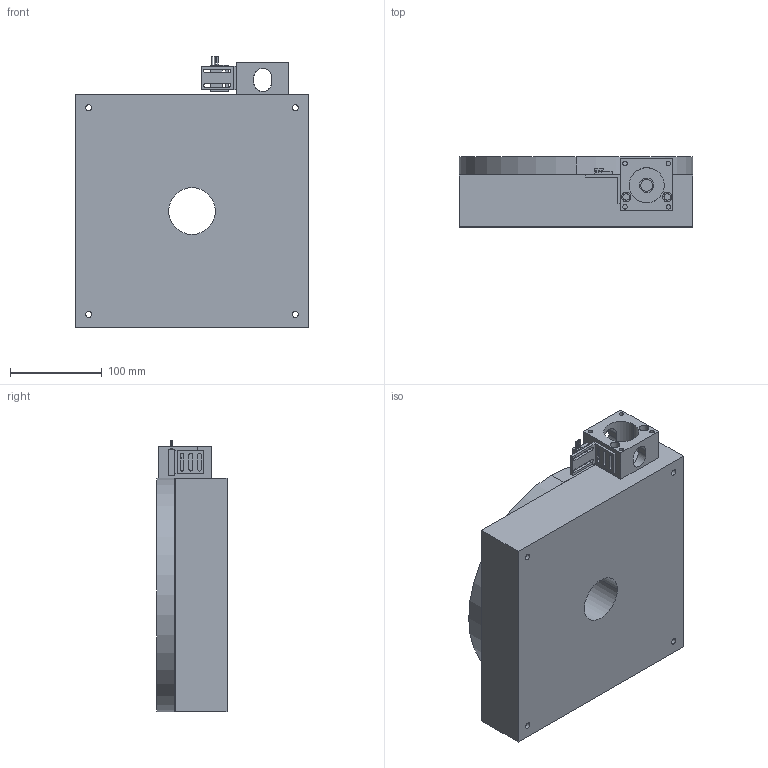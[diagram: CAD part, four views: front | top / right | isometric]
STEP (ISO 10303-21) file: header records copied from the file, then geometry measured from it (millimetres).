
FILE_DESCRIPTION((''),'2;1');
FILE_NAME('M10-ROTARY_ASM','2005-02-18T',('BF20108'),(''),'PRO/ENGINEER BY PARAMETRIC TECHNOLOGY CORPORATION, 2004400','PRO/ENGINEER BY PARAMETRIC TECHNOLOGY CORPORATION, 2004400','');
FILE_SCHEMA(('CONFIG_CONTROL_DESIGN'));
Products named in the file (7): M10RO-BASE; M10RO-TOP; M23-MB-01; 000-4457-SW-BRKT; 003-1145-SWITCH; ROTARY-TBL-HOME-SW_ASM; M10-ROTARY_ASM
Assembly tree (6 placements, depth 3):
  M10-ROTARY_ASM
    M10RO-BASE
    M10RO-TOP
    M23-MB-01
    ROTARY-TBL-HOME-SW_ASM
      000-4457-SW-BRKT
      003-1145-SWITCH
Bounding box: 254 x 76.2 x 295.49 mm (x, y, z)
Volume: 4501743.1 mm3; surface area: 345502.9 mm2
Topology: 5 solids, 13 shells, 165 faces, 430 edges, 286 vertices
Faces by surface type: cylinder 104, plane 61
Entity records: 5528 total; most frequent: DIRECTION 994, CARTESIAN_POINT 974, ORIENTED_EDGE 828, EDGE_CURVE 430, AXIS2_PLACEMENT_3D 388, VERTEX_POINT 286, EDGE_LOOP 236, VECTOR 218
